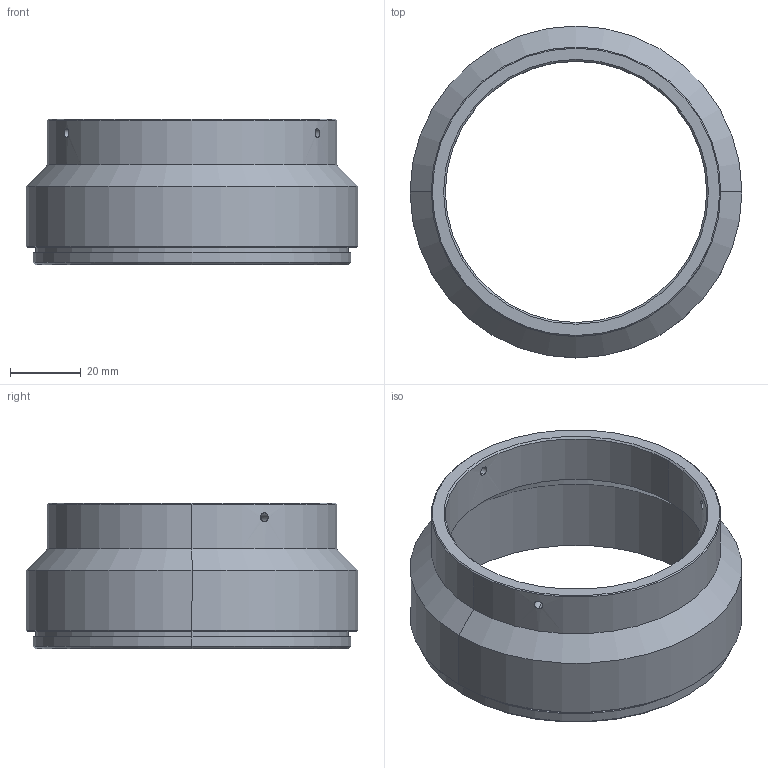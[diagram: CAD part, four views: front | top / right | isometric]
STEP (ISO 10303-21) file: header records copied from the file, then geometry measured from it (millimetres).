
FILE_DESCRIPTION (( 'STEP AP214' ), '1' );
FILE_NAME ('A21993A0000101A.STEP', '2026-05-19T05:25:40', ( '' ), ( '' ), 'SwSTEP 2.0', 'SolidWorks 2025', '' );
FILE_SCHEMA (( 'AUTOMOTIVE_DESIGN' ));
Length unit declared in the file: millimetre
Products named in the file (1): A21993A0000101A
Bounding box: 94 x 94 x 41.3 mm (x, y, z)
Volume: 45954.5 mm3; surface area: 25687.6 mm2
Topology: 1 solids, 1 shells, 34 faces, 74 edges, 44 vertices
Faces by surface type: cylinder 18, cone 12, plane 4
Entity records: 1165 total; most frequent: CARTESIAN_POINT 381, DIRECTION 164, ORIENTED_EDGE 148, EDGE_CURVE 74, AXIS2_PLACEMENT_3D 67, VERTEX_POINT 44, EDGE_LOOP 44, FACE_OUTER_BOUND 34
